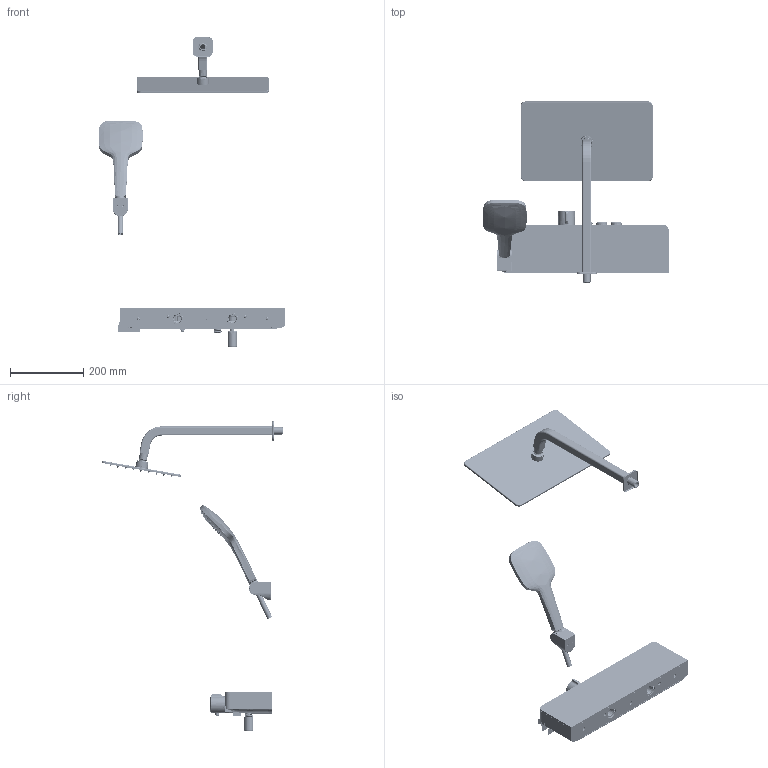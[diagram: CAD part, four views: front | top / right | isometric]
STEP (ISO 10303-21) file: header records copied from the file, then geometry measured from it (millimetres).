
FILE_DESCRIPTION((''),'2;1');
FILE_NAME('F9E9052C_ASM','2019-10-22T',('FADD22'),(''),'PRO/ENGINEER BY PARAMETRIC TECHNOLOGY CORPORATION, 2010020','PRO/ENGINEER BY PARAMETRIC TECHNOLOGY CORPORATION, 2010020','');
FILE_SCHEMA(('CONFIG_CONTROL_DESIGN'));
Products named in the file (90): 2332A0A-0D2_55; 2336A0A-0_2; 303009-080A_3; 302033-010A_5; 2335A0A-0_5; 302011-010A_5; 2332A0A-0D2-Z2_ASM_4_ASM; 334016-098A_1; 327063-020A_1; 2133149A-0_5; 304012-010A_3; 2133149A-0Z1_ASM_5_ASM; 304500300002_2; 20171206-03_1; 20171206-04_1; 20171206-06_1; 20171206-08_1; 20171206-07_1; 20171206-10_1; 2101149A-0Z1_ASM_2_ASM; 328025-020A_4; 302055-010A_2; 327063-020AZ1_ASM_7_ASM; 308024-022B_10; 2159020A-0_2; 328079-042B_1; 2546A0A-0D2_2; 311005-010A_4; 301027-010A_2; 328066-010A_3; 302067-010A_3; 2016C0A-0_1; 501138-019A_1; 328079-042B-Z1_ASM_10_ASM; 2423A0A-0D2_12; 302059-010A_8; 2424B0A-0S1_3; 2424A0A-0S7_3; 2424A0A-0S8_4; 2424A0A-0S9_7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
Assembly tree (246 placements, depth 8):
  F9E9052C_ASM
    F031711-8K01_ASM_14_ASM
      2332A0A-0D2-Z2_ASM_4_ASM
        2332A0A-0D2_55
        2336A0A-0_2  x4
        303009-080A_3  x4
        302033-010A_5  x4
        2335A0A-0_5
        302011-010A_5  x4
      334016-098A_1
      327063-020AZ1_ASM_7_ASM
        327063-020A_1
        2133149A-0Z1_ASM_5_ASM
          2133149A-0_5
          304012-010A_3
        304500300002_2
        2101149A-0Z1_ASM_2_ASM  x3
          20171206-03_1
          20171206-04_1
          20171206-06_1
          20171206-08_1
          20171206-07_1
          20171206-10_1
        328025-020A_4  x3
        302055-010A_2  x4
      308024-022B_10
      2159020A-0_2
      328079-042B-Z1_ASM_10_ASM
        328079-042B_1
        2546A0A-0D2_2
        311005-010A_4
        301027-010A_2
        328066-010A_3
        302067-010A_3
        2016C0A-0_1
        501138-019A_1
      2423A0A-0D2_12  x3
      302059-010A_8  x3
      2424B0A-0S1_3
      2424A0A-0S7_3
      2424A0A-0S8_4
      2424A0A-0S9_7
      504049-019A_4
      328053-022BZ1_ASM_12_ASM
        328053-01_7
        328026-03_5
        328026-02_8
        328026-07_8
        328026-04_7
        328026-05_5
        328026-06_5
        328026-08_5_ASM
          MANIFOLD_SOLID_BREP_271231
          MANIFOLD_SOLID_BREP_271368
      306070-022B_16
      501068-019A_12
      S3S005C
      S168013-00_ASM_ASM
        S168013-00_ASM_25_ASM
          S168013-01_32
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Bounding box: 508.84 x 494.18 x 845.86 mm (x, y, z)
Volume: 1787636.6 mm3; surface area: 1453696.7 mm2
Topology: 235 solids, 256 shells, 14431 faces, 37441 edges, 23929 vertices
Faces by surface type: cylinder 4532, plane 3712, cone 2275, bspline 1993, torus 1588, extrusion 168, sphere 161, revolution 2
Entity records: 461565 total; most frequent: CARTESIAN_POINT 264068, ORIENTED_EDGE 44774, DIRECTION 34983, EDGE_CURVE 22435, VERTEX_POINT 14475, AXIS2_PLACEMENT_3D 13298, EDGE_LOOP 9382, VECTOR 8385
